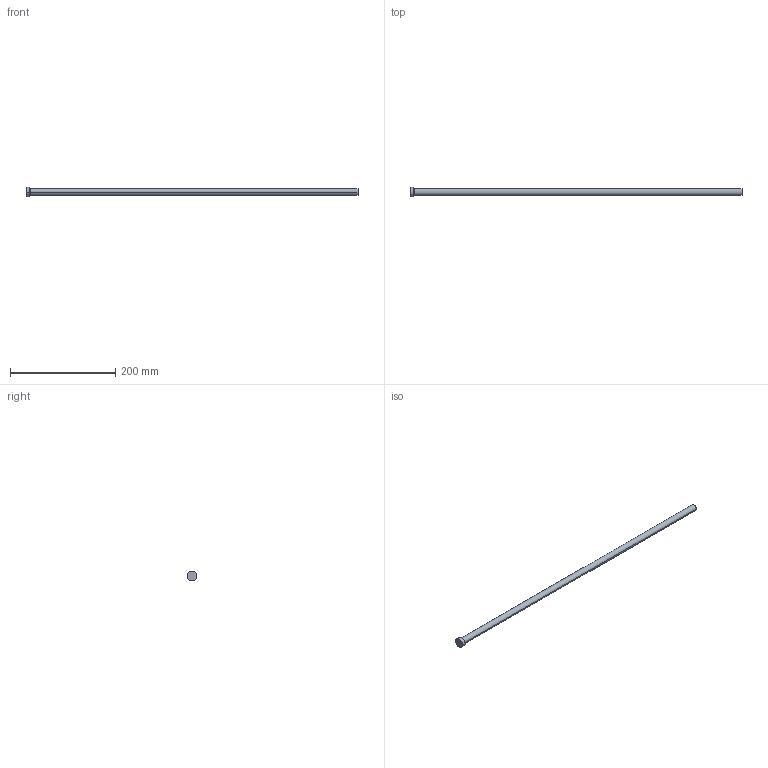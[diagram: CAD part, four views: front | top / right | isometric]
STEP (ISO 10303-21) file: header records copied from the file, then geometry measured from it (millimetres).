
FILE_DESCRIPTION (( 'STEP AP214' ), '1' );
FILE_NAME ('A-12,5x630.STEP', '2020-05-29T16:12:18', ( 'August' ), ( '' ), 'SwSTEP 2.0', 'SolidWorks 2018', '' );
FILE_SCHEMA (( 'AUTOMOTIVE_DESIGN' ));
Length unit declared in the file: millimetre
Products named in the file (1): A-12,5x630
Bounding box: 630 x 18 x 18 mm (x, y, z)
Volume: 78240.4 mm3; surface area: 25356.7 mm2
Topology: 1 solids, 1 shells, 9 faces, 16 edges, 10 vertices
Faces by surface type: cylinder 4, plane 3, torus 2
Entity records: 260 total; most frequent: DIRECTION 48, CARTESIAN_POINT 36, ORIENTED_EDGE 32, AXIS2_PLACEMENT_3D 22, EDGE_CURVE 16, CIRCLE 12, EDGE_LOOP 10, VERTEX_POINT 10
